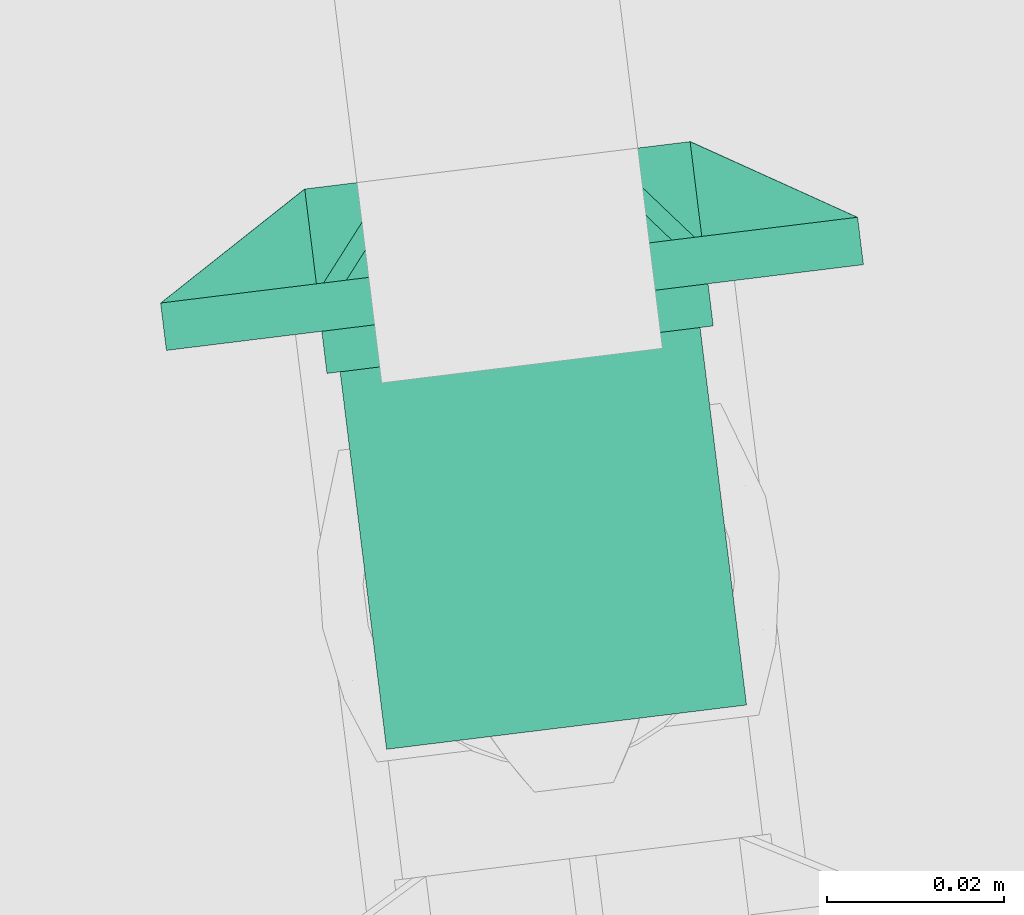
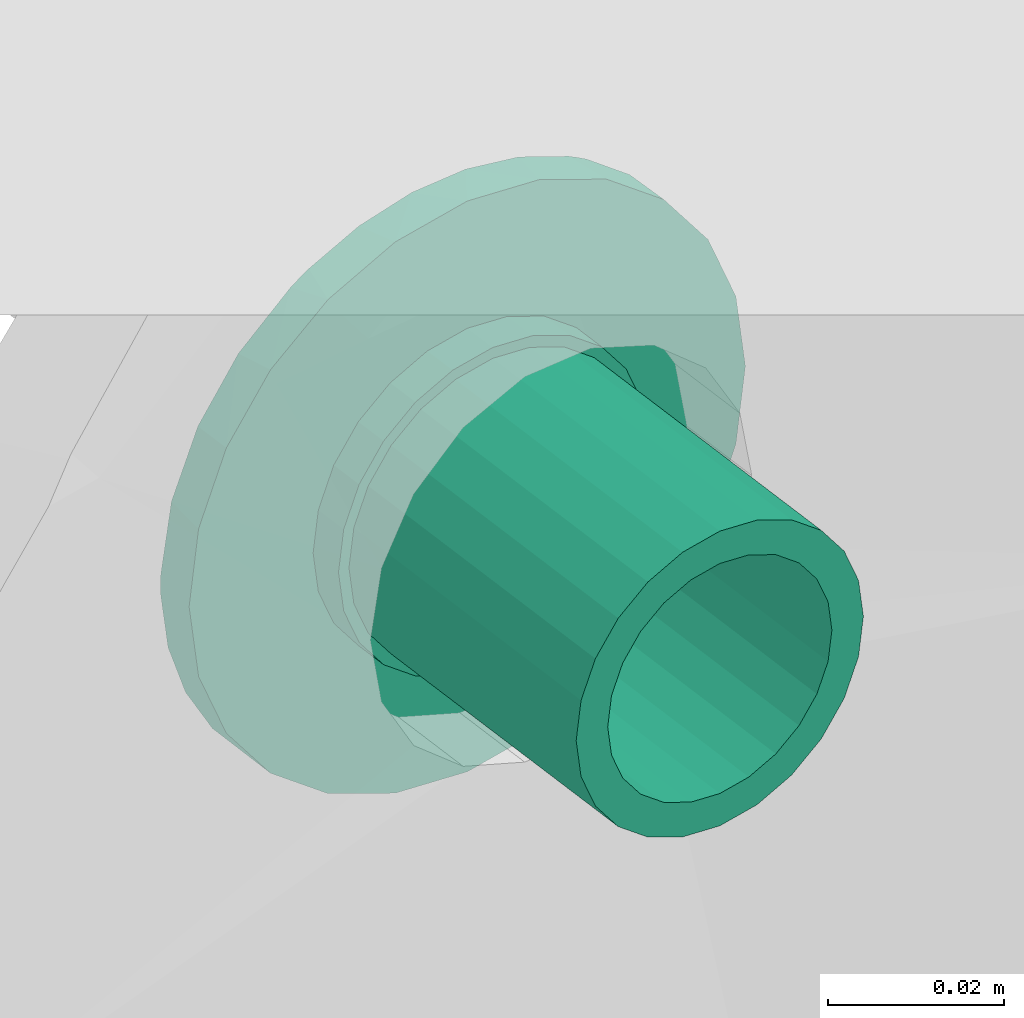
# One storey, part 95 of 97: 1 flow controller.
"""IFC2X3 building model written with IfcOpenShell, lengths in centimetres."""

from ifc_helpers import new_model, entity, si_unit, converted_unit, derived_unit, direction, frame, origin, place, context, subcontext, project, spatial, faceted_brep, source, transform, mapped, material, type_object, type_shapes, element, save


model = new_model("IFC2X3")

# Units and contexts
model_context = context("Model", 3, precision=0.001, world=origin(), true_north=direction((6.12303176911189e-17, 1.0)))
body_context = subcontext(model_context, "Body", "Model", "MODEL_VIEW")
ifc_project = project(units=[si_unit("LENGTHUNIT", "METRE", prefix="CENTI"), si_unit("AREAUNIT", "SQUARE_METRE"), si_unit("VOLUMEUNIT", "CUBIC_METRE"), converted_unit("PLANEANGLEUNIT", "DEGREE", entity("IfcRatioMeasure", 0.0174532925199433), si_unit("PLANEANGLEUNIT", "RADIAN"), dimensions=[0, 0, 0, 0, 0, 0, 0]), si_unit("MASSUNIT", "GRAM", prefix="KILO"), derived_unit("MASSDENSITYUNIT", [(si_unit("MASSUNIT", "GRAM", prefix="KILO"), 1), (si_unit("LENGTHUNIT", "METRE"), -3)]), derived_unit("MOMENTOFINERTIAUNIT", [(si_unit("LENGTHUNIT", "METRE"), 4)]), si_unit("TIMEUNIT", "SECOND"), si_unit("FREQUENCYUNIT", "HERTZ"), si_unit("THERMODYNAMICTEMPERATUREUNIT", "DEGREE_CELSIUS"), derived_unit("THERMALTRANSMITTANCEUNIT", [(si_unit("MASSUNIT", "GRAM", prefix="KILO"), 1), (si_unit("THERMODYNAMICTEMPERATUREUNIT", "KELVIN"), -1), (si_unit("TIMEUNIT", "SECOND"), -3)]), derived_unit("VOLUMETRICFLOWRATEUNIT", [(si_unit("LENGTHUNIT", "METRE"), 3), (si_unit("TIMEUNIT", "SECOND"), -1)]), si_unit("ELECTRICCURRENTUNIT", "AMPERE"), si_unit("ELECTRICVOLTAGEUNIT", "VOLT"), si_unit("POWERUNIT", "WATT"), si_unit("FORCEUNIT", "NEWTON", prefix="KILO"), si_unit("ILLUMINANCEUNIT", "LUX"), si_unit("LUMINOUSFLUXUNIT", "LUMEN"), si_unit("LUMINOUSINTENSITYUNIT", "CANDELA"), derived_unit("USERDEFINED", [(si_unit("MASSUNIT", "GRAM", prefix="KILO"), -1), (si_unit("LENGTHUNIT", "METRE"), -2), (si_unit("TIMEUNIT", "SECOND"), 3), (si_unit("LUMINOUSFLUXUNIT", "LUMEN"), 1)]), derived_unit("LINEARVELOCITYUNIT", [(si_unit("LENGTHUNIT", "METRE"), 1), (si_unit("TIMEUNIT", "SECOND"), -1)]), si_unit("PRESSUREUNIT", "PASCAL"), derived_unit("USERDEFINED", [(si_unit("LENGTHUNIT", "METRE"), -2), (si_unit("MASSUNIT", "GRAM", prefix="KILO"), 1), (si_unit("TIMEUNIT", "SECOND"), -2)]), derived_unit("LINEARFORCEUNIT", [(si_unit("MASSUNIT", "GRAM", prefix="KILO"), 1), (si_unit("LENGTHUNIT", "METRE"), 1), (si_unit("TIMEUNIT", "SECOND"), -2), (si_unit("LENGTHUNIT", "METRE"), -1)]), derived_unit("PLANARFORCEUNIT", [(si_unit("MASSUNIT", "GRAM", prefix="KILO"), 1), (si_unit("LENGTHUNIT", "METRE"), 1), (si_unit("TIMEUNIT", "SECOND"), -2), (si_unit("LENGTHUNIT", "METRE"), -2)])], contexts=[model_context])

# Site, building, storey
site_placement = place(None, origin())
site = spatial("IfcSite", under=ifc_project, at=site_placement, Name="Default", CompositionType="ELEMENT")
building_placement = place(site_placement, origin())
building = spatial("IfcBuilding", under=site, at=building_placement, Name="HIDROSSANITÁRIO", CompositionType="ELEMENT")
storey_placement = place(building_placement, frame((0.0, 0.0, -260.0)))
storey = spatial("IfcBuildingStorey", under=building, at=storey_placement, Name="TÉRREO-HID", CompositionType="ELEMENT", Elevation=-260.0)

# Flow controller
ifc_material = material(Name="PVC Marrom")
valve_type = type_object("IfcValveType", Name="Adaptador com Anel - Agua Fria_Soldavel - MEP - Tigre:Standard", PredefinedType="NOTDEFINED", material=ifc_material)
shared_shape = source(origin(), body_context, "Body", "Brep", [
    faceted_brep([(1.08000000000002, 1.13989968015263, 3.80283167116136), (1.08000000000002, 1.85367880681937, 3.5106658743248), (1.08000000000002, 0.967536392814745, 1.97582219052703), (1.08000000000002, 0.496583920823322, 2.14322290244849), (1.08000000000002, 0.0, 2.2), (1.08000000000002, -0.496583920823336, 2.14322290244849), (1.08000000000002, -0.967536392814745, 1.97582219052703), (1.08000000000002, -1.85367880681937, 3.5106658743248), (1.08000000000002, -1.1399938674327, 3.80280343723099), (1.08000000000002, -0.384816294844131, 3.95130566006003), (1.08000000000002, 0.384782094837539, 3.95130899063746), (1.08000000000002, 2.1948804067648, 0.150000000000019), (1.08000000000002, 2.10437743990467, 0.641557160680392), (1.08000000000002, 1.90525588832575, 1.10000000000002), (1.08000000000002, 1.60779351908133, 1.50166574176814), (1.08000000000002, 1.22734401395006, 1.82582219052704), (1.08000000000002, 2.11348642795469, 3.36066587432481), (1.08000000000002, 2.72328678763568, 2.8887037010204), (1.08000000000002, 3.22972828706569, 2.30862625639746), (1.08000000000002, 3.61465831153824, 1.64168976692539), (1.08000000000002, 3.8635767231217, 0.913057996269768), (1.08000000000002, 3.96716523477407, 0.150000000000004), (1.08000000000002, -3.43854804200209, 1.98425990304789), (1.08000000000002, -2.86002658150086, 2.75338844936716), (1.08000000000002, -2.11348642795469, 3.36066587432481), (1.08000000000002, -1.22734401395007, 1.82582219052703), (1.08000000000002, -1.60779351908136, 1.50166574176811), (1.08000000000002, -1.90525588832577, 1.09999999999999), (1.08000000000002, -2.10437743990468, 0.641557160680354), (1.08000000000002, -2.1948804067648, 0.150000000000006), (1.08000000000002, -3.96716523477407, 0.150000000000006), (1.08000000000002, -3.81498951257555, 1.09852401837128), (1.08000000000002, 1.60779351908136, -1.50166574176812), (1.08000000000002, 1.90525588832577, -1.09999999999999), (1.08000000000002, 2.10437743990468, -0.641557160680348), (1.08000000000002, 2.1948804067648, -0.149999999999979), (1.08000000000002, 3.96716523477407, -0.149999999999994), (1.08000000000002, 3.81498951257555, -1.09852401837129), (1.08000000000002, 3.43854804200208, -1.98425990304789), (1.08000000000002, 2.86002658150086, -2.75338844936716), (1.08000000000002, 2.11348642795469, -3.36066587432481), (1.08000000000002, 1.22734401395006, -1.82582219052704), (1.08000000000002, -2.72328678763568, -2.8887037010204), (1.08000000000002, -3.22972828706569, -2.30862625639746), (1.08000000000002, -3.61465831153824, -1.64168976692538), (1.08000000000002, -3.8635767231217, -0.913057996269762), (1.08000000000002, -3.96716523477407, -0.149999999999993), (1.08000000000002, -2.1948804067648, -0.149999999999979), (1.08000000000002, -2.10437743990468, -0.641557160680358), (1.08000000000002, -1.90525588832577, -1.09999999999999), (1.08000000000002, -1.60779351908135, -1.50166574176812), (1.08000000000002, -1.22734401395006, -1.82582219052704), (1.08000000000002, -2.1134864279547, -3.3606658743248), (1.08000000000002, 0.384816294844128, -3.95130566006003), (1.08000000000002, -0.384782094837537, -3.95130899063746), (1.08000000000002, -1.13989968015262, -3.80283167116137), (1.08000000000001, -1.85367880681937, -3.5106658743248), (1.08000000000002, -0.967536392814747, -1.97582219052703), (1.08000000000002, -0.496583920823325, -2.14322290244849), (1.08000000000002, 0.0, -2.2), (1.08000000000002, 0.496583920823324, -2.14322290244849), (1.08000000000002, 0.967536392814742, -1.97582219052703), (1.08000000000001, 1.85367880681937, -3.51066587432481), (1.08000000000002, 1.1399938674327, -3.80280343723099), (0.539854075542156, -3.08111172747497, -0.149999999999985), (0.540000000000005, -3.085, 0.0), (0.0, -2.19871972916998, -0.0750436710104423), (0.0, -2.1948804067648, -0.149999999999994), (1.08000000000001, -3.96929124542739, -0.0750133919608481), (0.0, -2.20000000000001, 0.0), (1.08000000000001, -3.97, 0.0), (0.539854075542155, -1.67045967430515, -2.59332102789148), (0.539854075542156, -1.41065205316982, -2.74332102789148), (1.08000000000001, -1.98499999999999, -3.43812085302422), (0.0, -1.1, -1.90525588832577), (0.0, -0.967536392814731, -1.97582219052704), (0.0, -1.22734401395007, -1.82582219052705), (0.539854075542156, 1.41065205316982, -2.74332102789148), (0.539854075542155, 1.67045967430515, -2.59332102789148), (1.08000000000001, 1.98499999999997, -3.43812085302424), (0.0, 1.10000000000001, -1.90525588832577), (0.0, 1.22734401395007, -1.82582219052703), (0.0, 0.967536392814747, -1.97582219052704), (0.539854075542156, 3.08111172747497, 0.150000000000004), (0.540000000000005, 3.085, 0.0), (0.0, 2.19871972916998, 0.0750436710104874), (0.0, 2.1948804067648, 0.150000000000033), (1.08000000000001, 3.96929124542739, 0.0750133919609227), (0.0, 2.20000000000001, 0.0), (1.08000000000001, 3.97, 0.0), (0.539854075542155, 1.67045967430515, 2.59332102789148), (0.539854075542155, 1.41065205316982, 2.74332102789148), (1.08000000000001, 1.98499999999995, 3.43812085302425), (0.0, 1.09999999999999, 1.90525588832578), (0.0, 0.967536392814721, 1.97582219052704), (0.0, 1.22734401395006, 1.82582219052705), (0.539854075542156, -1.41065205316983, 2.74332102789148), (0.539854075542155, -1.67045967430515, 2.59332102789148), (1.08000000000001, -1.98500000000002, 3.43812085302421), (0.0, -1.10000000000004, 1.90525588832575), (0.0, -1.22734401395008, 1.82582219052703), (0.0, -0.967536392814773, 1.97582219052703), (2.1, -2.12503681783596, 0.569401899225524), (1.62, -2.12503681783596, 0.569401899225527), (1.62, -2.20000000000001, 0.0), (2.1, -2.20000000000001, 0.0), (2.1, -1.90525588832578, 1.09999999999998), (1.62, -1.90525588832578, 1.09999999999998), (1.62, -1.55563491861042, 1.55563491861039), (2.1, -1.55563491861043, 1.55563491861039), (2.1, -1.10000000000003, 1.90525588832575), (1.62, -1.10000000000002, 1.90525588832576), (2.1, -0.569401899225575, 2.12503681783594), (1.62, -0.56940189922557, 2.12503681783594), (2.1, 0.0, 2.2), (1.62, 0.0, 2.2), (2.1, 1.09999999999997, 1.90525588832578), (1.62, 1.09999999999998, 1.90525588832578), (1.62, 0.56940189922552, 2.12503681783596), (2.1, 0.569401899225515, 2.12503681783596), (2.1, 1.55563491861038, 1.55563491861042), (1.62, 1.55563491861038, 1.55563491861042), (1.62, 1.90525588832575, 1.10000000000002), (2.1, 1.90525588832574, 1.10000000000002), (2.1, 2.12503681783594, 0.569401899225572), (1.62, 2.12503681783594, 0.569401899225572), (2.1, 2.19999999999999, 0.0), (1.62, 2.19999999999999, 0.0), (0.0, 1.60771175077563, 1.50175328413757), (0.0, 1.90522954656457, 1.10004562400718), (0.0, 2.10438430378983, 0.641534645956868), (0.0, -0.593194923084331, 2.11851829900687), (0.0, -0.199912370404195, 2.19089822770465), (0.0, 0.199877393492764, 2.19090141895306), (0.0, 0.593069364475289, 2.11855345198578), (2.1, 2.12503681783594, -0.569401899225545), (1.62, 2.12503681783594, -0.569401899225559), (2.1, 1.90525588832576, -1.1), (1.62, 1.90525588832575, -1.10000000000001), (1.62, 1.55563491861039, -1.55563491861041), (2.1, 1.5556349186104, -1.5556349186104), (2.1, 1.1, -1.90525588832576), (1.62, 1.09999999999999, -1.90525588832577), (2.1, 0.569401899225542, -2.12503681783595), (1.62, 0.569401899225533, -2.12503681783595), (2.1, 0.0, -2.2), (1.62, 0.0, -2.2), (2.1, -1.1, -1.90525588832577), (1.62, -1.10000000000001, -1.90525588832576), (1.62, -0.569401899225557, -2.12503681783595), (2.1, -0.569401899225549, -2.12503681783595), (2.1, -1.55563491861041, -1.55563491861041), (1.62, -1.55563491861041, -1.5556349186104), (1.62, -1.90525588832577, -1.09999999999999), (2.1, -1.90525588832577, -1.1), (2.1, -2.12503681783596, -0.569401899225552), (1.62, -2.12503681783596, -0.569401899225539), (0.0, -1.60771175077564, -1.50175328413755), (0.0, -1.90522954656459, -1.10004562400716), (0.0, -2.10438430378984, -0.641534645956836), (0.0, 0.593194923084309, -2.11851829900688), (0.0, 0.199912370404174, -2.19089822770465), (0.0, -0.199877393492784, -2.19090141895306), (0.0, -0.593069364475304, -2.11855345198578), (1.62, 1.985, -3.43812085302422), (1.62, 2.8072139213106, -2.80721392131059), (1.62, 1.02751160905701, -3.8347255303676), (1.62, 0.0, -3.97), (1.62, -1.027511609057, -3.8347255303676), (1.62, -1.98499999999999, -3.43812085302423), (1.62, -2.80721392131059, -2.8072139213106), (1.62, -3.43812085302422, -1.98500000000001), (1.62, -3.8347255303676, -1.02751160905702), (1.62, -3.97, 0.0), (1.62, -3.83472553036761, 1.02751160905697), (1.62, -3.43812085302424, 1.98499999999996), (1.62, -2.80721392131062, 2.80721392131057), (1.62, -1.98500000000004, 3.4381208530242), (1.62, -1.02751160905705, 3.83472553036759), (1.62, 0.0, 3.97), (1.62, 1.02751160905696, 3.83472553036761), (1.62, 1.98499999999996, 3.43812085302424), (1.62, 2.80721392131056, 2.80721392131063), (1.62, 3.4381208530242, 1.98500000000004), (1.62, 3.83472553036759, 1.02751160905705), (1.62, 3.97, 0.0), (1.62, 3.8347255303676, -1.02751160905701), (1.62, 3.43812085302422, -1.985), (1.08000000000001, -3.96929124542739, 0.0750133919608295), (1.08000000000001, 3.96929124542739, -0.0750133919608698), (0.539854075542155, 3.08111172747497, -0.149999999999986), (0.0, 2.19871972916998, -0.0750436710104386), (0.0, 2.19488040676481, -0.149999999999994), (0.539854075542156, -3.08111172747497, 0.150000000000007), (0.0, -2.19871972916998, 0.0750436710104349), (0.0, -2.19488040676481, 0.149999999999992), (0.0, 0.800000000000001, 1.3856406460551), (0.0, 0.414110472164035, 1.54548132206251), (0.0, 1.13137084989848, 1.13137084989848), (0.0, 0.0, 1.6), (0.0, -0.414110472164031, 1.54548132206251), (0.0, -0.799999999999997, 1.3856406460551), (0.0, -1.13137084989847, 1.13137084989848), (0.0, -1.53739589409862, 1.57366256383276), (0.0, -1.7969720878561, 1.26920893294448), (0.0, -1.3856406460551, 0.800000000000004), (0.0, -1.99715179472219, 0.922705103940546), (0.0, -1.54548132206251, 0.414110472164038), (0.0, -2.13125524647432, 0.54566571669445), (0.0, -1.6, 0.0), (0.0, -1.54548132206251, -0.414110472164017), (0.0, -1.38564064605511, -0.799999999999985), (0.0, -1.13137084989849, -1.13137084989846), (0.0, -0.800000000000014, -1.38564064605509), (0.0, -0.414110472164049, -1.54548132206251), (0.0, 0.0, -1.6), (0.0, 0.414110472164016, -1.54548132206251), (0.0, 0.799999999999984, -1.38564064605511), (0.0, 1.13137084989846, -1.13137084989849), (0.0, 1.53739589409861, -1.57366256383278), (0.0, 1.79697208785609, -1.2692089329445), (0.0, 1.38564064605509, -0.800000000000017), (0.0, 1.99715179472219, -0.922705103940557), (0.0, 1.5454813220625, -0.414110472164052), (0.0, 2.13125524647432, -0.545665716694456), (0.0, 1.6, 0.0), (0.0, 1.54548132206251, 0.414110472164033), (0.0, 1.3856406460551, 0.799999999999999), (6.4, 1.025, -1.7753520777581), (6.4, 1.44956890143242, -1.44956890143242), (6.4, 0.799999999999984, -1.38564064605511), (6.4, 0.414110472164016, -1.54548132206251), (6.4, 0.53057904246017, -1.98014794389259), (6.4, 1.13137084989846, -1.13137084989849), (6.4, 1.7753520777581, -1.025), (6.4, 1.38564064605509, -0.800000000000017), (6.4, 1.5454813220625, -0.414110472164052), (6.4, 1.98014794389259, -0.530579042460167), (6.4, 1.6, 0.0), (6.4, 2.05, 0.0), (6.4, 1.54548132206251, 0.414110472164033), (6.4, 1.98014794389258, 0.530579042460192), (6.4, 1.3856406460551, 0.799999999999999), (6.4, 1.77535207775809, 1.02500000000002), (6.4, 1.13137084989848, 1.13137084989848), (6.4, 1.44956890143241, 1.44956890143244), (6.4, 0.800000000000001, 1.3856406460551), (6.4, 1.02499999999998, 1.77535207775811), (6.4, 0.414110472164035, 1.54548132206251), (6.4, 0.530579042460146, 1.9801479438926), (6.4, 0.0, 1.6), (6.4, 0.0, 2.05), (6.4, -0.414110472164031, 1.54548132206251), (6.4, -0.530579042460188, 1.98014794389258), (6.4, -0.799999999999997, 1.3856406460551), (6.4, -1.02500000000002, 1.77535207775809), (6.4, -1.13137084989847, 1.13137084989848), (6.4, -1.44956890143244, 1.44956890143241), (6.4, -1.3856406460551, 0.800000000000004), (6.4, -1.77535207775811, 1.02499999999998), (6.4, -1.9801479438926, 0.530579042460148), (6.4, -1.54548132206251, 0.414110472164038), (6.4, -2.05, 0.0), (6.4, -1.6, 0.0), (6.4, -1.98014794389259, -0.530579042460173), (6.4, -1.54548132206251, -0.414110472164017), (6.4, -1.7753520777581, -1.025), (6.4, -1.38564064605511, -0.799999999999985), (6.4, -1.44956890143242, -1.44956890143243), (6.4, -1.13137084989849, -1.13137084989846), (6.4, -1.025, -1.7753520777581), (6.4, -0.800000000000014, -1.38564064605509), (6.4, -0.530579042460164, -1.98014794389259), (6.4, -0.41411047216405, -1.54548132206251), (6.4, 0.0, -2.05), (6.4, 0.0, -1.6), (2.1, -1.9801479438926, 0.530579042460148), (2.09999999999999, -2.05, 0.0), (2.1, -1.77535207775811, 1.02499999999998), (2.1, -1.02500000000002, 1.77535207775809), (2.1, -1.44956890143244, 1.4495689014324), (2.1, -0.530579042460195, 1.98014794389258), (2.1, 0.0, 2.05), (2.10000000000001, 1.02499999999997, 1.77535207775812), (2.1, 0.530579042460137, 1.9801479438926), (2.10000000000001, 1.4495689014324, 1.44956890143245), (2.10000000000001, 1.98014794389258, 0.530579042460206), (2.10000000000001, 1.77535207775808, 1.02500000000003), (2.10000000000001, 2.05, 0.0), (2.10000000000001, 1.98014794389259, -0.53057904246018), (2.10000000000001, 1.77535207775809, -1.02500000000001), (2.1, 0.530579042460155, -1.98014794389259), (2.10000000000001, 1.02499999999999, -1.77535207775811), (2.10000000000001, 1.44956890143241, -1.44956890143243), (2.1, 0.0, -2.05), (2.1, -1.02500000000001, -1.77535207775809), (2.1, -0.530579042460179, -1.98014794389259), (2.1, -1.44956890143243, -1.44956890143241), (2.1, -1.98014794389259, -0.530579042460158), (2.1, -1.7753520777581, -1.02499999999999), (1.08000000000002, -1.6, 0.0), (1.62, -1.6, 0.0), (2.1, -1.6, 0.0), (1.62, -1.54548132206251, -0.414110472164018), (1.08000000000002, -1.54548132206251, -0.414110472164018), (1.62, -1.38564064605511, -0.799999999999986), (1.08000000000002, -1.38564064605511, -0.799999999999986), (1.08000000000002, -0.800000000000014, -1.38564064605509), (1.08000000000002, -1.13137084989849, -1.13137084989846), (1.62, -1.13137084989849, -1.13137084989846), (1.62, -0.800000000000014, -1.38564064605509), (1.08000000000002, -0.41411047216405, -1.54548132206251), (1.62, -0.41411047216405, -1.54548132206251), (1.62, 0.0, -1.6), (1.08000000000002, 0.0, -1.6), (1.62, 0.414110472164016, -1.54548132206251), (1.08000000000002, 0.414110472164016, -1.54548132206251), (1.62, 0.799999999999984, -1.38564064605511), (1.08000000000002, 0.799999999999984, -1.38564064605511), (1.08000000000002, 1.38564064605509, -0.800000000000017), (1.08000000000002, 1.13137084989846, -1.13137084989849), (1.62, 1.13137084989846, -1.13137084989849), (1.62, 1.38564064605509, -0.800000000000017), (1.08000000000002, 1.5454813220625, -0.414110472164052), (1.62, 1.5454813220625, -0.414110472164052), (2.10000000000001, 1.6, 0.0), (1.62, 1.6, 0.0), (1.08000000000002, 1.6, 0.0), (1.62, 1.54548132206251, 0.414110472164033), (1.08000000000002, 1.54548132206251, 0.414110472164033), (1.62, 1.3856406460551, 0.799999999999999), (1.08000000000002, 1.3856406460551, 0.799999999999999), (1.08000000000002, 0.800000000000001, 1.3856406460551), (1.08000000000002, 1.13137084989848, 1.13137084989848), (1.62, 1.13137084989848, 1.13137084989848), (1.62, 0.800000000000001, 1.3856406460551), (1.08000000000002, 0.414110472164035, 1.54548132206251), (1.62, 0.414110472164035, 1.54548132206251), (1.62, 0.0, 1.6), (1.08000000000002, 0.0, 1.6), (1.62, -0.414110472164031, 1.54548132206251), (1.08000000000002, -0.414110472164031, 1.54548132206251), (1.62, -0.799999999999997, 1.3856406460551), (1.08000000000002, -0.799999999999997, 1.3856406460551), (1.08000000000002, -1.3856406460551, 0.800000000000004), (1.08000000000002, -1.13137084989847, 1.13137084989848), (1.62, -1.13137084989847, 1.13137084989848), (1.62, -1.3856406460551, 0.800000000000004), (1.08000000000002, -1.54548132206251, 0.414110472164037), (1.62, -1.54548132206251, 0.414110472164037)], [[[0, 1, 2, 3, 4, 5, 6, 7, 8, 9, 10]], [[11, 12, 13, 14, 15, 16, 17, 18, 19, 20, 21]], [[22, 23, 24, 25, 26, 27, 28, 29, 30, 31]], [[32, 33, 34, 35, 36, 37, 38, 39, 40, 41]], [[42, 43, 44, 45, 46, 47, 48, 49, 50, 51, 52]], [[53, 54, 55, 56, 57, 58, 59, 60, 61, 62, 63]], [[64, 65, 66]], [[66, 67, 64]], [[68, 64, 46]], [[66, 65, 69]], [[64, 68, 65]], [[65, 68, 70]], [[71, 72, 73]], [[72, 56, 73]], [[74, 75, 72]], [[71, 76, 74]], [[71, 73, 52]], [[74, 72, 71]], [[77, 78, 79]], [[78, 40, 79]], [[80, 81, 78]], [[77, 82, 80]], [[77, 79, 62]], [[80, 78, 77]], [[83, 84, 85]], [[85, 86, 83]], [[87, 83, 21]], [[85, 84, 88]], [[83, 87, 84]], [[84, 87, 89]], [[90, 91, 92]], [[91, 1, 92]], [[93, 94, 91]], [[90, 95, 93]], [[90, 92, 16]], [[93, 91, 90]], [[96, 97, 98]], [[97, 24, 98]], [[99, 100, 97]], [[96, 101, 99]], [[96, 98, 7]], [[99, 97, 96]], [[102, 103, 104, 105]], [[106, 107, 103, 102]], [[108, 109, 110, 111]], [[106, 109, 108, 107]], [[111, 110, 112, 113]], [[114, 115, 113, 112]], [[116, 117, 118, 119]], [[120, 121, 117, 116]], [[122, 123, 124, 125]], [[120, 123, 122, 121]], [[125, 124, 126, 127]], [[118, 115, 114, 119]], [[15, 14, 128]], [[15, 128, 95]], [[128, 14, 129]], [[14, 13, 129]], [[13, 12, 130]], [[130, 11, 86]], [[11, 130, 12]], [[13, 130, 129]], [[6, 5, 131]], [[6, 131, 101]], [[131, 5, 132]], [[5, 4, 132]], [[133, 4, 3]], [[134, 3, 2]], [[3, 134, 133]], [[134, 2, 94]], [[4, 133, 132]], [[135, 136, 127, 126]], [[137, 138, 136, 135]], [[139, 140, 141, 142]], [[137, 140, 139, 138]], [[142, 141, 143, 144]], [[145, 146, 144, 143]], [[147, 148, 149, 150]], [[151, 152, 148, 147]], [[153, 154, 155, 156]], [[151, 154, 153, 152]], [[156, 155, 105, 104]], [[149, 146, 145, 150]], [[51, 50, 157]], [[51, 157, 76]], [[157, 50, 158]], [[50, 49, 158]], [[49, 48, 159]], [[159, 47, 67]], [[47, 159, 48]], [[49, 159, 158]], [[61, 60, 160]], [[61, 160, 82]], [[160, 60, 161]], [[60, 59, 161]], [[162, 59, 58]], [[163, 58, 57]], [[58, 163, 162]], [[163, 57, 75]], [[59, 162, 161]], [[142, 144, 164]], [[165, 142, 164]], [[142, 165, 139]], [[144, 166, 164]], [[166, 144, 146]], [[166, 146, 167]], [[149, 167, 146]], [[167, 149, 168]], [[149, 148, 168]], [[169, 168, 148]], [[152, 169, 148]], [[169, 152, 170]], [[153, 170, 152]], [[171, 170, 153]], [[156, 171, 153]], [[172, 171, 156]], [[172, 156, 104]], [[172, 104, 173]], [[173, 104, 103]], [[173, 103, 174]], [[174, 103, 107]], [[174, 107, 175]], [[176, 175, 107]], [[176, 107, 108]], [[108, 177, 176]], [[108, 111, 177]], [[178, 177, 111]], [[113, 178, 111]], [[113, 179, 178]], [[179, 113, 115]], [[115, 180, 179]], [[118, 180, 115]], [[180, 118, 181]], [[117, 181, 118]], [[182, 181, 117]], [[182, 117, 121]], [[182, 121, 183]], [[183, 121, 122]], [[183, 122, 184]], [[125, 184, 122]], [[185, 184, 125]], [[125, 127, 185]], [[127, 186, 185]], [[186, 127, 136]], [[186, 136, 187]], [[136, 138, 187]], [[139, 187, 138]], [[165, 187, 139]], [[174, 30, 173]], [[31, 174, 175]], [[175, 176, 23]], [[7, 177, 178]], [[178, 9, 8]], [[9, 178, 179]], [[9, 179, 10]], [[176, 177, 24]], [[8, 7, 178]], [[31, 30, 174]], [[70, 173, 188]], [[188, 173, 30]], [[98, 24, 177]], [[23, 22, 175]], [[176, 24, 23]], [[22, 31, 175]], [[98, 177, 7]], [[181, 1, 180]], [[16, 181, 182]], [[182, 183, 18]], [[184, 185, 21]], [[185, 87, 21]], [[87, 185, 89]], [[183, 184, 19]], [[20, 184, 21]], [[92, 1, 181]], [[1, 0, 180]], [[0, 10, 180]], [[19, 18, 183]], [[17, 16, 182]], [[182, 18, 17]], [[16, 92, 181]], [[184, 20, 19]], [[180, 10, 179]], [[186, 36, 185]], [[37, 186, 187]], [[187, 165, 39]], [[62, 164, 166]], [[166, 53, 63]], [[53, 166, 167]], [[53, 167, 54]], [[165, 164, 40]], [[63, 62, 166]], [[37, 36, 186]], [[36, 189, 185]], [[189, 89, 185]], [[79, 40, 164]], [[39, 38, 187]], [[165, 40, 39]], [[38, 37, 187]], [[164, 62, 79]], [[169, 56, 168]], [[52, 169, 170]], [[170, 171, 43]], [[172, 173, 46]], [[173, 68, 46]], [[68, 173, 70]], [[171, 172, 44]], [[45, 172, 46]], [[73, 56, 169]], [[56, 55, 168]], [[55, 54, 168]], [[44, 43, 171]], [[42, 52, 170]], [[170, 43, 42]], [[52, 73, 169]], [[172, 45, 44]], [[168, 54, 167]], [[84, 190, 191]], [[89, 189, 84]], [[190, 192, 191]], [[84, 191, 88]], [[190, 189, 36]], [[190, 84, 189]], [[65, 193, 194]], [[65, 194, 69]], [[193, 195, 194]], [[70, 188, 65]], [[193, 188, 30]], [[193, 65, 188]], [[196, 197, 94]], [[93, 196, 94]], [[95, 196, 93]], [[196, 95, 198]], [[134, 94, 197]], [[133, 134, 197]], [[197, 199, 133]], [[133, 199, 132]], [[132, 199, 200]], [[131, 132, 200]], [[131, 200, 101]], [[101, 200, 201]], [[101, 201, 99]], [[99, 201, 100]], [[100, 201, 202]], [[100, 202, 203]], [[202, 204, 203]], [[202, 205, 204]], [[204, 205, 206]], [[205, 207, 206]], [[208, 206, 207]], [[207, 195, 208]], [[207, 209, 195]], [[209, 194, 195]], [[209, 69, 194]], [[209, 66, 69]], [[209, 67, 66]], [[210, 67, 209]], [[210, 159, 67]], [[159, 210, 211]], [[159, 211, 158]], [[211, 157, 158]], [[157, 211, 212]], [[212, 76, 157]], [[76, 212, 213]], [[213, 74, 76]], [[74, 213, 75]], [[213, 214, 75]], [[214, 163, 75]], [[162, 163, 214]], [[214, 215, 162]], [[215, 161, 162]], [[216, 161, 215]], [[160, 161, 216]], [[160, 216, 82]], [[216, 217, 82]], [[217, 80, 82]], [[80, 217, 81]], [[81, 217, 218]], [[219, 81, 218]], [[219, 218, 220]], [[221, 220, 218]], [[220, 221, 222]], [[221, 223, 222]], [[223, 224, 222]], [[223, 192, 224]], [[225, 192, 223]], [[191, 192, 225]], [[225, 88, 191]], [[85, 88, 225]], [[85, 225, 86]], [[225, 226, 86]], [[130, 86, 226]], [[226, 227, 130]], [[227, 129, 130]], [[128, 227, 198]], [[128, 129, 227]], [[95, 128, 198]], [[2, 1, 91, 94]], [[52, 51, 76, 71]], [[16, 15, 95, 90]], [[57, 56, 72, 75]], [[25, 24, 97, 100]], [[62, 61, 82, 77]], [[7, 6, 101, 96]], [[41, 40, 78, 81]], [[11, 21, 83, 86]], [[30, 29, 195, 193]], [[36, 35, 192, 190]], [[47, 46, 64, 67]], [[228, 229, 230]], [[228, 230, 231]], [[231, 232, 228]], [[230, 229, 233]], [[234, 233, 229]], [[235, 233, 234]], [[236, 235, 234]], [[236, 234, 237]], [[236, 237, 238]], [[238, 237, 239]], [[240, 238, 239]], [[240, 239, 241]], [[242, 240, 241]], [[242, 241, 243]], [[244, 242, 243]], [[243, 245, 244]], [[245, 246, 244]], [[246, 245, 247]], [[246, 247, 248]], [[249, 248, 247]], [[248, 249, 250]], [[250, 249, 251]], [[251, 252, 250]], [[252, 251, 253]], [[252, 253, 254]], [[255, 254, 253]], [[255, 256, 254]], [[255, 257, 256]], [[258, 256, 257]], [[259, 258, 257]], [[260, 258, 259]], [[261, 258, 260]], [[261, 260, 262]], [[262, 263, 261]], [[264, 263, 262]], [[264, 265, 263]], [[265, 264, 266]], [[267, 265, 266]], [[267, 266, 268]], [[267, 268, 269]], [[268, 270, 269]], [[269, 270, 271]], [[271, 270, 272]], [[272, 273, 271]], [[274, 273, 272]], [[232, 275, 274]], [[274, 275, 273]], [[232, 231, 275]], [[276, 277, 262, 260]], [[259, 278, 276, 260]], [[279, 280, 257, 255]], [[259, 257, 280, 278]], [[281, 279, 255, 253]], [[253, 251, 282, 281]], [[283, 284, 249, 247]], [[245, 285, 283, 247]], [[286, 287, 243, 241]], [[245, 243, 287, 285]], [[288, 286, 241, 239]], [[249, 284, 282, 251]], [[237, 289, 288, 239]], [[234, 290, 289, 237]], [[228, 232, 291, 292]], [[229, 228, 292, 293]], [[229, 293, 290, 234]], [[232, 274, 294, 291]], [[295, 296, 272, 270]], [[268, 297, 295, 270]], [[298, 299, 266, 264]], [[268, 266, 299, 297]], [[277, 298, 264, 262]], [[272, 296, 294, 274]], [[300, 301, 302, 263, 265, 303, 304, 210, 209]], [[304, 303, 265, 267, 305, 306, 211, 210]], [[307, 213, 212, 308, 309, 269, 271, 310]], [[309, 308, 212, 211, 306, 305, 267, 269]], [[311, 214, 213, 307, 310, 271, 273, 312]], [[311, 312, 273, 275, 313, 314, 215, 214]], [[314, 313, 275, 231, 315, 316, 216, 215]], [[316, 315, 231, 230, 317, 318, 217, 216]], [[319, 221, 218, 320, 321, 233, 235, 322]], [[321, 320, 218, 217, 318, 317, 230, 233]], [[323, 223, 221, 319, 322, 235, 236, 324]], [[323, 324, 236, 238, 325, 326, 327, 225, 223]], [[327, 326, 325, 238, 240, 328, 329, 226, 225]], [[329, 328, 240, 242, 330, 331, 227, 226]], [[332, 196, 198, 333, 334, 244, 246, 335]], [[334, 333, 198, 227, 331, 330, 242, 244]], [[336, 197, 196, 332, 335, 246, 248, 337]], [[336, 337, 248, 250, 338, 339, 199, 197]], [[339, 338, 250, 252, 340, 341, 200, 199]], [[341, 340, 252, 254, 342, 343, 201, 200]], [[344, 205, 202, 345, 346, 256, 258, 347]], [[346, 345, 202, 201, 343, 342, 254, 256]], [[348, 207, 205, 344, 347, 258, 261, 349]], [[348, 349, 261, 263, 302, 301, 300, 209, 207]], [[141, 140, 292]], [[141, 292, 291]], [[291, 143, 141]], [[292, 140, 293]], [[137, 293, 140]], [[293, 137, 290]], [[290, 137, 289]], [[135, 289, 137]], [[135, 288, 289]], [[288, 135, 126]], [[286, 288, 126]], [[126, 124, 286]], [[286, 124, 287]], [[123, 287, 124]], [[287, 123, 285]], [[285, 123, 120]], [[283, 285, 120]], [[120, 116, 283]], [[283, 116, 284]], [[119, 284, 116]], [[284, 119, 282]], [[282, 119, 114]], [[282, 114, 281]], [[281, 114, 112]], [[281, 112, 279]], [[110, 279, 112]], [[110, 280, 279]], [[280, 110, 109]], [[109, 278, 280]], [[106, 278, 109]], [[278, 106, 102]], [[102, 276, 278]], [[105, 276, 102]], [[105, 277, 276]], [[155, 277, 105]], [[155, 298, 277]], [[298, 155, 154]], [[154, 299, 298]], [[299, 154, 151]], [[299, 151, 297]], [[151, 147, 297]], [[297, 147, 295]], [[295, 147, 150]], [[150, 296, 295]], [[145, 296, 150]], [[143, 294, 145]], [[145, 294, 296]], [[143, 291, 294]], [[29, 28, 208]], [[29, 208, 195]], [[208, 28, 206]], [[28, 27, 206]], [[204, 27, 26]], [[203, 26, 25]], [[26, 203, 204]], [[203, 25, 100]], [[27, 204, 206]], [[35, 34, 224]], [[35, 224, 192]], [[224, 34, 222]], [[34, 33, 222]], [[220, 33, 32]], [[219, 32, 41]], [[32, 219, 220]], [[219, 41, 81]], [[33, 220, 222]]]),
])
type_shapes(valve_type, [shared_shape])
flow_controller_placement = place(storey_placement, frame((-1662.7284078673, 3097.61118899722, 325.5), z_axis=(0.0, 0.0, 1.0), x_axis=(0.122152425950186, -0.992511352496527, 0.0)))
element("IfcFlowController", 1, at=flow_controller_placement, inside=storey, type_object=valve_type, material=ifc_material, Name="Adaptador com Anel - Agua Fria_Soldavel - MEP - Tigre:Standard", ObjectType="Adaptador com Anel - Agua Fria_Soldavel - MEP - Tigre:Standard", context=body_context, shape_type="MappedRepresentation", body=[
    mapped(shared_shape, transform((0.0, 0.0, 0.0), scale=1.0)),
])

save(model, "model.ifc")
